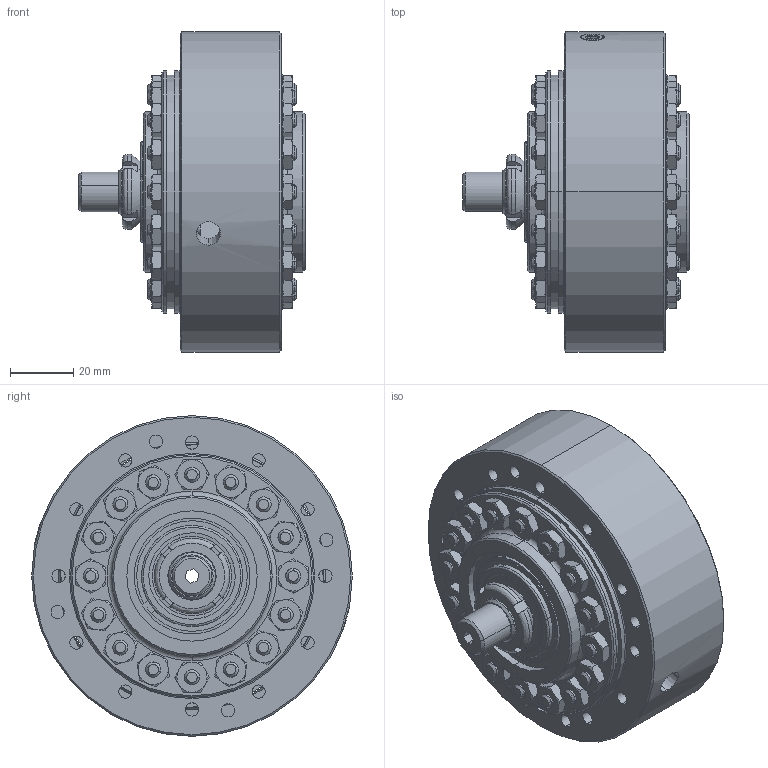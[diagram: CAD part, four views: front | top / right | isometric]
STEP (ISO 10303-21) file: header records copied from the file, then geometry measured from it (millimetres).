
FILE_DESCRIPTION (( 'STEP AP214' ), '1' );
FILE_NAME ('DM02RRRFTLS0000.STEP', '2019-10-30T16:56:57', ( '' ), ( '' ), 'SwSTEP 2.0', 'SolidWorks 2019', '' );
FILE_SCHEMA (( 'AUTOMOTIVE_DESIGN' ));
Length unit declared in the file: millimetre
Products named in the file (1): DM02RRRFTLS0000
Bounding box: 71.79 x 101.6 x 101.6 mm (x, y, z)
Surface area: 55716 mm2 (no closed solid volume)
Topology: 0 solids, 81 shells, 968 faces, 2648 edges, 1741 vertices
Faces by surface type: cone 360, plane 300, cylinder 216, sphere 48, torus 34, bspline 10
Entity records: 47298 total; most frequent: CARTESIAN_POINT 13448, DIRECTION 4756, ORIENTED_EDGE 4469, EDGE_CURVE 2648, AXIS2_PLACEMENT_3D 2060, VERTEX_POINT 1741, EDGE_LOOP 1109, CIRCLE 1101
